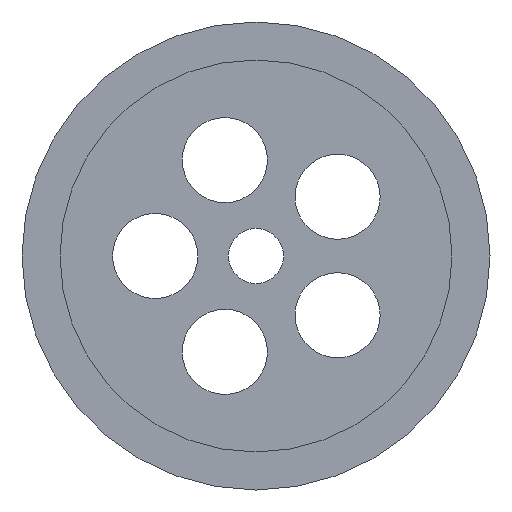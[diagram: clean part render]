
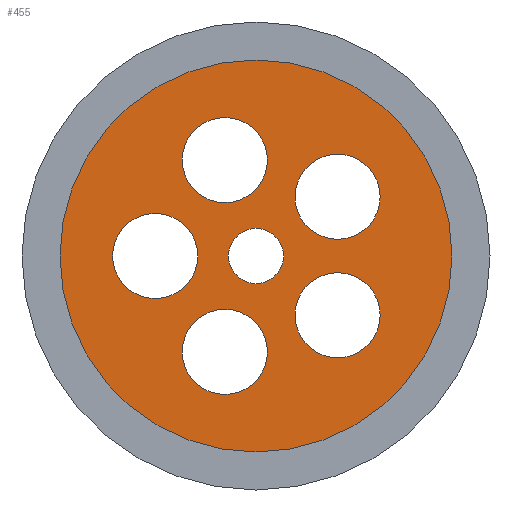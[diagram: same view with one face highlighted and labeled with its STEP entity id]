
A CAD part, left-side view. The second image highlights one B-rep face of the part: STEP entity #455.
In plain terms, the highlighted planar face has unit normal (-1, 0, 0).
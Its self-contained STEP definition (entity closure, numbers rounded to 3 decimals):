
#30 = AXIS2_PLACEMENT_3D ( 'NONE', #415, #1300, #662 ) ;
#35 = ORIENTED_EDGE ( 'NONE', *, *, #275, .T. ) ;
#41 = CARTESIAN_POINT ( 'NONE',  ( -6.65, 2.929, 5.016 ) ) ;
#50 = FACE_BOUND ( 'NONE', #717, .T. ) ;
#51 = CIRCLE ( 'NONE', #1042, 4. ) ;
#52 = EDGE_CURVE ( 'NONE', #516, #1338, #238, .T. ) ;
#55 = AXIS2_PLACEMENT_3D ( 'NONE', #416, #630, #1362 ) ;
#71 = DIRECTION ( 'NONE',  ( 1., 0., 0. ) ) ;
#78 = DIRECTION ( 'NONE',  ( 0., 0., -1. ) ) ;
#140 = EDGE_CURVE ( 'NONE', #392, #1209, #1089, .T. ) ;
#164 = CIRCLE ( 'NONE', #549, 4. ) ;
#169 = ORIENTED_EDGE ( 'NONE', *, *, #736, .F. ) ;
#172 = CARTESIAN_POINT ( 'NONE',  ( -6.65, 9.48, 0. ) ) ;
#180 = CARTESIAN_POINT ( 'NONE',  ( -6.65, 9.48, 0. ) ) ;
#190 = DIRECTION ( 'NONE',  ( 1., 0., 0. ) ) ;
#192 = VERTEX_POINT ( 'NONE', #1031 ) ;
#223 = CARTESIAN_POINT ( 'NONE',  ( -6.65, -7.669, 9.572 ) ) ;
#238 = CIRCLE ( 'NONE', #883, 4. ) ;
#250 = CARTESIAN_POINT ( 'NONE',  ( -6.65, 2.929, -9.016 ) ) ;
#275 = EDGE_CURVE ( 'NONE', #739, #618, #636, .T. ) ;
#281 = EDGE_CURVE ( 'NONE', #866, #534, #51, .T. ) ;
#283 = DIRECTION ( 'NONE',  ( 1., 0., 0. ) ) ;
#295 = CARTESIAN_POINT ( 'NONE',  ( -6.65, -7.669, 1.572 ) ) ;
#308 = ORIENTED_EDGE ( 'NONE', *, *, #1170, .T. ) ;
#310 = EDGE_CURVE ( 'NONE', #386, #538, #903, .T. ) ;
#332 = ORIENTED_EDGE ( 'NONE', *, *, #1226, .T. ) ;
#333 = DIRECTION ( 'NONE',  ( 1., 0., 0. ) ) ;
#354 = CARTESIAN_POINT ( 'NONE',  ( -6.65, 9.48, 4. ) ) ;
#357 = CARTESIAN_POINT ( 'NONE',  ( -6.65, -7.669, 5.572 ) ) ;
#358 = AXIS2_PLACEMENT_3D ( 'NONE', #702, #283, #1340 ) ;
#364 = CARTESIAN_POINT ( 'NONE',  ( -6.65, 2.929, -13.016 ) ) ;
#366 = FACE_BOUND ( 'NONE', #676, .T. ) ;
#370 = DIRECTION ( 'NONE',  ( 0., -0.951, -0.309 ) ) ;
#375 = CARTESIAN_POINT ( 'NONE',  ( -6.65, 0., -2.59 ) ) ;
#386 = VERTEX_POINT ( 'NONE', #1306 ) ;
#392 = VERTEX_POINT ( 'NONE', #354 ) ;
#414 = CIRCLE ( 'NONE', #1153, 4. ) ;
#415 = CARTESIAN_POINT ( 'NONE',  ( -6.65, 0., 0. ) ) ;
#416 = CARTESIAN_POINT ( 'NONE',  ( -6.65, 0., 0. ) ) ;
#417 = CIRCLE ( 'NONE', #1207, 4. ) ;
#418 = EDGE_LOOP ( 'NONE', ( #169, #484 ) ) ;
#427 = EDGE_LOOP ( 'NONE', ( #332, #978 ) ) ;
#455 = ADVANCED_FACE ( 'NONE', ( #792, #366, #489, #688, #798, #50, #699 ), #1332, .T. ) ;
#472 = CARTESIAN_POINT ( 'NONE',  ( -6.65, 0., 2.59 ) ) ;
#480 = AXIS2_PLACEMENT_3D ( 'NONE', #172, #71, #496 ) ;
#484 = ORIENTED_EDGE ( 'NONE', *, *, #1123, .F. ) ;
#489 = FACE_BOUND ( 'NONE', #531, .T. ) ;
#490 = AXIS2_PLACEMENT_3D ( 'NONE', #704, #1126, #886 ) ;
#496 = DIRECTION ( 'NONE',  ( 0., 0., -1. ) ) ;
#509 = ORIENTED_EDGE ( 'NONE', *, *, #1090, .T. ) ;
#516 = VERTEX_POINT ( 'NONE', #1228 ) ;
#531 = EDGE_LOOP ( 'NONE', ( #701, #509 ) ) ;
#532 = CARTESIAN_POINT ( 'NONE',  ( -6.65, -7.669, -9.572 ) ) ;
#534 = VERTEX_POINT ( 'NONE', #1218 ) ;
#538 = VERTEX_POINT ( 'NONE', #364 ) ;
#549 = AXIS2_PLACEMENT_3D ( 'NONE', #180, #610, #78 ) ;
#551 = EDGE_CURVE ( 'NONE', #1073, #1105, #1140, .T. ) ;
#557 = DIRECTION ( 'NONE',  ( 1., 0., 0. ) ) ;
#610 = DIRECTION ( 'NONE',  ( 1., 0., 0. ) ) ;
#618 = VERTEX_POINT ( 'NONE', #472 ) ;
#630 = DIRECTION ( 'NONE',  ( 1., 0., 0. ) ) ;
#636 = CIRCLE ( 'NONE', #30, 2.59 ) ;
#641 = ORIENTED_EDGE ( 'NONE', *, *, #976, .T. ) ;
#647 = EDGE_CURVE ( 'NONE', #538, #386, #417, .T. ) ;
#653 = DIRECTION ( 'NONE',  ( 1., 0., 0. ) ) ;
#659 = EDGE_LOOP ( 'NONE', ( #770, #675 ) ) ;
#662 = DIRECTION ( 'NONE',  ( 0., 0., -1. ) ) ;
#675 = ORIENTED_EDGE ( 'NONE', *, *, #52, .T. ) ;
#676 = EDGE_LOOP ( 'NONE', ( #641, #754 ) ) ;
#683 = CARTESIAN_POINT ( 'NONE',  ( -6.65, -7.669, 5.572 ) ) ;
#688 = FACE_BOUND ( 'NONE', #724, .T. ) ;
#699 = FACE_OUTER_BOUND ( 'NONE', #418, .T. ) ;
#701 = ORIENTED_EDGE ( 'NONE', *, *, #281, .T. ) ;
#702 = CARTESIAN_POINT ( 'NONE',  ( -6.65, 2.929, 9.016 ) ) ;
#704 = CARTESIAN_POINT ( 'NONE',  ( -6.65, 0., 0. ) ) ;
#707 = EDGE_CURVE ( 'NONE', #1338, #516, #890, .T. ) ;
#717 = EDGE_LOOP ( 'NONE', ( #35, #308 ) ) ;
#724 = EDGE_LOOP ( 'NONE', ( #764, #1258 ) ) ;
#736 = EDGE_CURVE ( 'NONE', #1231, #192, #776, .T. ) ;
#738 = AXIS2_PLACEMENT_3D ( 'NONE', #683, #996, #1315 ) ;
#739 = VERTEX_POINT ( 'NONE', #375 ) ;
#750 = DIRECTION ( 'NONE',  ( 0., -0.951, -0.309 ) ) ;
#754 = ORIENTED_EDGE ( 'NONE', *, *, #551, .T. ) ;
#764 = ORIENTED_EDGE ( 'NONE', *, *, #647, .T. ) ;
#770 = ORIENTED_EDGE ( 'NONE', *, *, #707, .T. ) ;
#776 = CIRCLE ( 'NONE', #1138, 18.425 ) ;
#778 = CARTESIAN_POINT ( 'NONE',  ( -6.65, 0., -18.425 ) ) ;
#792 = FACE_BOUND ( 'NONE', #659, .T. ) ;
#798 = FACE_BOUND ( 'NONE', #427, .T. ) ;
#847 = CARTESIAN_POINT ( 'NONE',  ( -6.65, -7.669, -5.572 ) ) ;
#861 = CARTESIAN_POINT ( 'NONE',  ( -6.65, -7.669, -5.572 ) ) ;
#866 = VERTEX_POINT ( 'NONE', #532 ) ;
#883 = AXIS2_PLACEMENT_3D ( 'NONE', #949, #1377, #924 ) ;
#886 = DIRECTION ( 'NONE',  ( 0., 0., -1. ) ) ;
#890 = CIRCLE ( 'NONE', #358, 4. ) ;
#903 = CIRCLE ( 'NONE', #1036, 4. ) ;
#910 = CARTESIAN_POINT ( 'NONE',  ( -6.65, 0., 0. ) ) ;
#924 = DIRECTION ( 'NONE',  ( 0., 0.951, -0.309 ) ) ;
#936 = CARTESIAN_POINT ( 'NONE',  ( -6.65, 0., 0. ) ) ;
#949 = CARTESIAN_POINT ( 'NONE',  ( -6.65, 2.929, 9.016 ) ) ;
#969 = DIRECTION ( 'NONE',  ( 1., 0., 0. ) ) ;
#971 = CIRCLE ( 'NONE', #55, 2.59 ) ;
#976 = EDGE_CURVE ( 'NONE', #1105, #1073, #1118, .T. ) ;
#978 = ORIENTED_EDGE ( 'NONE', *, *, #140, .T. ) ;
#996 = DIRECTION ( 'NONE',  ( 1., 0., 0. ) ) ;
#1002 = DIRECTION ( 'NONE',  ( 1., 0., 0. ) ) ;
#1021 = DIRECTION ( 'NONE',  ( 0., 0., -1. ) ) ;
#1031 = CARTESIAN_POINT ( 'NONE',  ( -6.65, 0., 18.425 ) ) ;
#1032 = CIRCLE ( 'NONE', #1302, 18.425 ) ;
#1036 = AXIS2_PLACEMENT_3D ( 'NONE', #250, #969, #750 ) ;
#1042 = AXIS2_PLACEMENT_3D ( 'NONE', #861, #333, #1198 ) ;
#1048 = AXIS2_PLACEMENT_3D ( 'NONE', #357, #653, #1199 ) ;
#1054 = CARTESIAN_POINT ( 'NONE',  ( -6.65, 9.48, -4. ) ) ;
#1073 = VERTEX_POINT ( 'NONE', #223 ) ;
#1089 = CIRCLE ( 'NONE', #480, 4. ) ;
#1090 = EDGE_CURVE ( 'NONE', #534, #866, #414, .T. ) ;
#1105 = VERTEX_POINT ( 'NONE', #295 ) ;
#1118 = CIRCLE ( 'NONE', #1048, 4. ) ;
#1123 = EDGE_CURVE ( 'NONE', #192, #1231, #1032, .T. ) ;
#1126 = DIRECTION ( 'NONE',  ( -1., 0., 0. ) ) ;
#1138 = AXIS2_PLACEMENT_3D ( 'NONE', #910, #1330, #1021 ) ;
#1140 = CIRCLE ( 'NONE', #738, 4. ) ;
#1153 = AXIS2_PLACEMENT_3D ( 'NONE', #847, #190, #1351 ) ;
#1170 = EDGE_CURVE ( 'NONE', #618, #739, #971, .T. ) ;
#1171 = DIRECTION ( 'NONE',  ( 0., 0., -1. ) ) ;
#1198 = DIRECTION ( 'NONE',  ( 0., -0.588, 0.809 ) ) ;
#1199 = DIRECTION ( 'NONE',  ( 0., 0.588, 0.809 ) ) ;
#1207 = AXIS2_PLACEMENT_3D ( 'NONE', #1224, #1002, #370 ) ;
#1209 = VERTEX_POINT ( 'NONE', #1054 ) ;
#1218 = CARTESIAN_POINT ( 'NONE',  ( -6.65, -7.669, -1.572 ) ) ;
#1224 = CARTESIAN_POINT ( 'NONE',  ( -6.65, 2.929, -9.016 ) ) ;
#1226 = EDGE_CURVE ( 'NONE', #1209, #392, #164, .T. ) ;
#1228 = CARTESIAN_POINT ( 'NONE',  ( -6.65, 2.929, 13.016 ) ) ;
#1231 = VERTEX_POINT ( 'NONE', #778 ) ;
#1258 = ORIENTED_EDGE ( 'NONE', *, *, #310, .T. ) ;
#1300 = DIRECTION ( 'NONE',  ( 1., 0., 0. ) ) ;
#1302 = AXIS2_PLACEMENT_3D ( 'NONE', #936, #557, #1171 ) ;
#1306 = CARTESIAN_POINT ( 'NONE',  ( -6.65, 2.929, -5.016 ) ) ;
#1315 = DIRECTION ( 'NONE',  ( 0., 0.588, 0.809 ) ) ;
#1330 = DIRECTION ( 'NONE',  ( 1., 0., 0. ) ) ;
#1332 = PLANE ( 'NONE',  #490 ) ;
#1338 = VERTEX_POINT ( 'NONE', #41 ) ;
#1340 = DIRECTION ( 'NONE',  ( 0., 0.951, -0.309 ) ) ;
#1351 = DIRECTION ( 'NONE',  ( 0., -0.588, 0.809 ) ) ;
#1362 = DIRECTION ( 'NONE',  ( 0., 0., -1. ) ) ;
#1377 = DIRECTION ( 'NONE',  ( 1., 0., 0. ) ) ;
